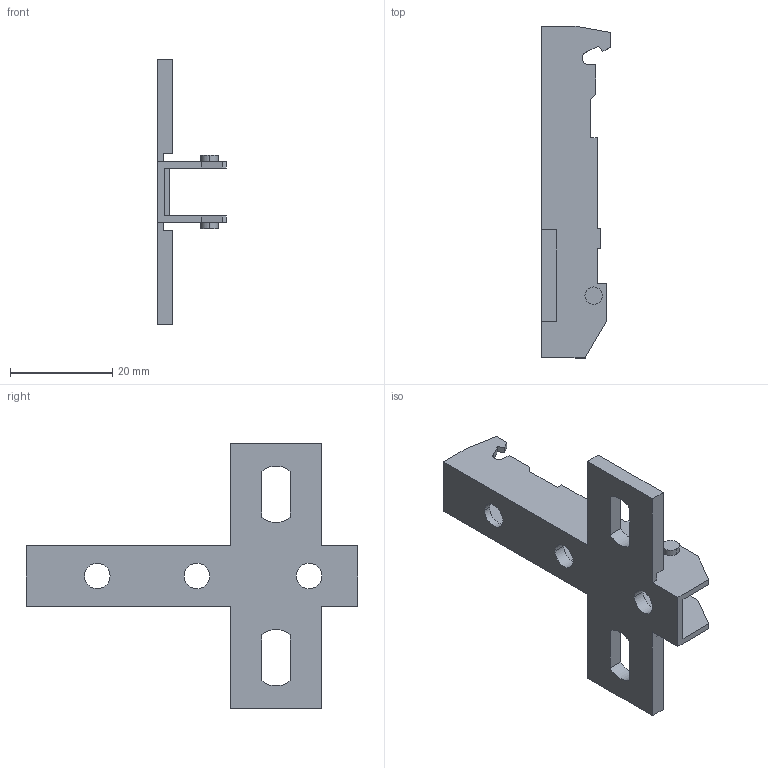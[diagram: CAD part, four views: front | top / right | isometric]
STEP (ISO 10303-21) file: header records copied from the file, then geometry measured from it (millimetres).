
FILE_DESCRIPTION (( 'STEP AP214' ), '1' );
FILE_NAME ('Eco Kreuzmontageplatte LR28_32_Euro_H03.step', '2010-11-18T10:05:50', ( 'grass' ), ( '' ), 'SwSTEP 2.0', 'SolidWorks 2010', '' );
FILE_SCHEMA (( 'AUTOMOTIVE_DESIGN' ));
Length unit declared in the file: millimetre
Products named in the file (1): Eco Kreuzmontageplatte LR28_32_Euro_H03
Bounding box: 13.5 x 65 x 52 mm (x, y, z)
Volume: 4482.4 mm3; surface area: 6020.2 mm2
Topology: 1 solids, 1 shells, 82 faces, 234 edges, 156 vertices
Faces by surface type: plane 66, cylinder 16
Entity records: 2704 total; most frequent: CARTESIAN_POINT 473, ORIENTED_EDGE 468, DIRECTION 432, EDGE_CURVE 234, VECTOR 202, LINE 202, VERTEX_POINT 156, AXIS2_PLACEMENT_3D 115
